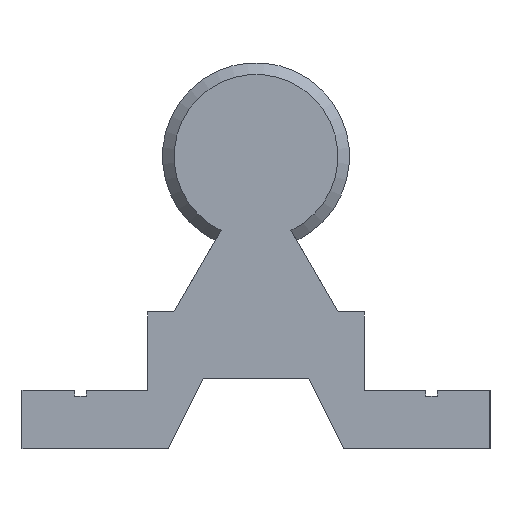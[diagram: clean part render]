
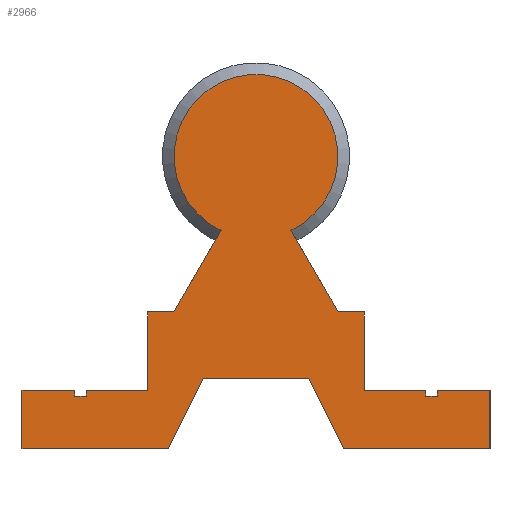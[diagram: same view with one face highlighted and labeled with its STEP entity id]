
A CAD part, left-side view. The second image highlights one B-rep face of the part: STEP entity #2966.
In plain terms, the highlighted planar face has unit normal (-1, 0, 0).
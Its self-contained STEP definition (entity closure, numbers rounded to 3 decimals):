
#64=LINE('',#4381,#318);
#65=LINE('',#4383,#319);
#66=LINE('',#4385,#320);
#67=LINE('',#4387,#321);
#68=LINE('',#4389,#322);
#69=LINE('',#4391,#323);
#70=LINE('',#4393,#324);
#71=LINE('',#4395,#325);
#72=LINE('',#4397,#326);
#73=LINE('',#4399,#327);
#74=LINE('',#4401,#328);
#75=LINE('',#4403,#329);
#76=LINE('',#4405,#330);
#77=LINE('',#4407,#331);
#78=LINE('',#4409,#332);
#79=LINE('',#4411,#333);
#80=LINE('',#4413,#334);
#81=LINE('',#4415,#335);
#82=LINE('',#4417,#336);
#83=LINE('',#4419,#337);
#84=LINE('',#4421,#338);
#85=LINE('',#4423,#339);
#86=LINE('',#4424,#340);
#318=VECTOR('',#3463,10.);
#319=VECTOR('',#3464,10.);
#320=VECTOR('',#3465,10.);
#321=VECTOR('',#3466,10.);
#322=VECTOR('',#3467,10.);
#323=VECTOR('',#3468,10.);
#324=VECTOR('',#3469,10.);
#325=VECTOR('',#3470,10.);
#326=VECTOR('',#3471,10.);
#327=VECTOR('',#3472,10.);
#328=VECTOR('',#3473,10.);
#329=VECTOR('',#3474,10.);
#330=VECTOR('',#3475,10.);
#331=VECTOR('',#3476,10.);
#332=VECTOR('',#3477,10.);
#333=VECTOR('',#3478,10.);
#334=VECTOR('',#3479,10.);
#335=VECTOR('',#3480,10.);
#336=VECTOR('',#3481,10.);
#337=VECTOR('',#3482,10.);
#338=VECTOR('',#3483,10.);
#339=VECTOR('',#3484,10.);
#340=VECTOR('',#3485,10.);
#572=PLANE('',#3128);
#670=FACE_OUTER_BOUND('',#810,.T.);
#810=EDGE_LOOP('',(#1995,#1996,#1997,#1998,#1999,#2000,#2001,#2002,#2003,
#2004,#2005,#2006,#2007,#2008,#2009,#2010,#2011,#2012,#2013,#2014,#2015,
#2016,#2017,#2018));
#973=CIRCLE('',#3126,7.);
#1198=VERTEX_POINT('',#4368);
#1199=VERTEX_POINT('',#4372);
#1201=VERTEX_POINT('',#4380);
#1202=VERTEX_POINT('',#4382);
#1203=VERTEX_POINT('',#4384);
#1204=VERTEX_POINT('',#4386);
#1205=VERTEX_POINT('',#4388);
#1206=VERTEX_POINT('',#4390);
#1207=VERTEX_POINT('',#4392);
#1208=VERTEX_POINT('',#4394);
#1209=VERTEX_POINT('',#4396);
#1210=VERTEX_POINT('',#4398);
#1211=VERTEX_POINT('',#4400);
#1212=VERTEX_POINT('',#4402);
#1213=VERTEX_POINT('',#4404);
#1214=VERTEX_POINT('',#4406);
#1215=VERTEX_POINT('',#4408);
#1216=VERTEX_POINT('',#4410);
#1217=VERTEX_POINT('',#4412);
#1218=VERTEX_POINT('',#4414);
#1219=VERTEX_POINT('',#4416);
#1220=VERTEX_POINT('',#4418);
#1221=VERTEX_POINT('',#4420);
#1222=VERTEX_POINT('',#4422);
#1514=EDGE_CURVE('',#1198,#1199,#973,.T.);
#1517=EDGE_CURVE('',#1199,#1201,#64,.T.);
#1518=EDGE_CURVE('',#1202,#1198,#65,.T.);
#1519=EDGE_CURVE('',#1203,#1202,#66,.T.);
#1520=EDGE_CURVE('',#1204,#1203,#67,.T.);
#1521=EDGE_CURVE('',#1205,#1204,#68,.T.);
#1522=EDGE_CURVE('',#1206,#1205,#69,.T.);
#1523=EDGE_CURVE('',#1207,#1206,#70,.T.);
#1524=EDGE_CURVE('',#1208,#1207,#71,.T.);
#1525=EDGE_CURVE('',#1209,#1208,#72,.T.);
#1526=EDGE_CURVE('',#1210,#1209,#73,.T.);
#1527=EDGE_CURVE('',#1211,#1210,#74,.T.);
#1528=EDGE_CURVE('',#1212,#1211,#75,.T.);
#1529=EDGE_CURVE('',#1213,#1212,#76,.T.);
#1530=EDGE_CURVE('',#1214,#1213,#77,.T.);
#1531=EDGE_CURVE('',#1215,#1214,#78,.T.);
#1532=EDGE_CURVE('',#1216,#1215,#79,.T.);
#1533=EDGE_CURVE('',#1217,#1216,#80,.T.);
#1534=EDGE_CURVE('',#1218,#1217,#81,.T.);
#1535=EDGE_CURVE('',#1219,#1218,#82,.T.);
#1536=EDGE_CURVE('',#1220,#1219,#83,.T.);
#1537=EDGE_CURVE('',#1221,#1220,#84,.T.);
#1538=EDGE_CURVE('',#1222,#1221,#85,.T.);
#1539=EDGE_CURVE('',#1201,#1222,#86,.T.);
#1995=ORIENTED_EDGE('',*,*,#1517,.F.);
#1996=ORIENTED_EDGE('',*,*,#1514,.F.);
#1997=ORIENTED_EDGE('',*,*,#1518,.F.);
#1998=ORIENTED_EDGE('',*,*,#1519,.F.);
#1999=ORIENTED_EDGE('',*,*,#1520,.F.);
#2000=ORIENTED_EDGE('',*,*,#1521,.F.);
#2001=ORIENTED_EDGE('',*,*,#1522,.F.);
#2002=ORIENTED_EDGE('',*,*,#1523,.F.);
#2003=ORIENTED_EDGE('',*,*,#1524,.F.);
#2004=ORIENTED_EDGE('',*,*,#1525,.F.);
#2005=ORIENTED_EDGE('',*,*,#1526,.F.);
#2006=ORIENTED_EDGE('',*,*,#1527,.F.);
#2007=ORIENTED_EDGE('',*,*,#1528,.F.);
#2008=ORIENTED_EDGE('',*,*,#1529,.F.);
#2009=ORIENTED_EDGE('',*,*,#1530,.F.);
#2010=ORIENTED_EDGE('',*,*,#1531,.F.);
#2011=ORIENTED_EDGE('',*,*,#1532,.F.);
#2012=ORIENTED_EDGE('',*,*,#1533,.F.);
#2013=ORIENTED_EDGE('',*,*,#1534,.F.);
#2014=ORIENTED_EDGE('',*,*,#1535,.F.);
#2015=ORIENTED_EDGE('',*,*,#1536,.F.);
#2016=ORIENTED_EDGE('',*,*,#1537,.F.);
#2017=ORIENTED_EDGE('',*,*,#1538,.F.);
#2018=ORIENTED_EDGE('',*,*,#1539,.F.);
#2966=ADVANCED_FACE('',(#670),#572,.F.);
#3126=AXIS2_PLACEMENT_3D('',#4373,#3457,#3458);
#3128=AXIS2_PLACEMENT_3D('',#4379,#3461,#3462);
#3457=DIRECTION('center_axis',(1.,0.,0.));
#3458=DIRECTION('ref_axis',(0.,1.,0.));
#3461=DIRECTION('center_axis',(1.,0.,0.));
#3462=DIRECTION('ref_axis',(0.,0.,-1.));
#3463=DIRECTION('',(0.,-0.5,-0.866));
#3464=DIRECTION('',(0.,-0.5,0.866));
#3465=DIRECTION('',(0.,-1.,0.));
#3466=DIRECTION('',(0.,0.,1.));
#3467=DIRECTION('',(0.,-1.,0.));
#3468=DIRECTION('',(0.,0.,1.));
#3469=DIRECTION('',(0.,-1.,0.));
#3470=DIRECTION('',(0.,0.,-1.));
#3471=DIRECTION('',(0.,-1.,0.));
#3472=DIRECTION('',(0.,0.,1.));
#3473=DIRECTION('',(0.,1.,0.));
#3474=DIRECTION('',(0.,0.447,-0.894));
#3475=DIRECTION('',(0.,1.,0.));
#3476=DIRECTION('',(0.,0.447,0.894));
#3477=DIRECTION('',(0.,1.,0.));
#3478=DIRECTION('',(0.,0.,-1.));
#3479=DIRECTION('',(0.,-1.,0.));
#3480=DIRECTION('',(0.,0.,1.));
#3481=DIRECTION('',(0.,-1.,0.));
#3482=DIRECTION('',(0.,0.,-1.));
#3483=DIRECTION('',(0.,-1.,0.));
#3484=DIRECTION('',(0.,0.,-1.));
#3485=DIRECTION('',(0.,-1.,0.));
#4368=CARTESIAN_POINT('',(0.,2.986,18.669));
#4372=CARTESIAN_POINT('',(0.,-2.986,18.669));
#4373=CARTESIAN_POINT('Origin',(0.,0.,25.));
#4379=CARTESIAN_POINT('Origin',(0.,0.,25.));
#4380=CARTESIAN_POINT('',(0.,-7.009,11.7));
#4381=CARTESIAN_POINT('',(0.,-1.492,21.255));
#4382=CARTESIAN_POINT('',(0.,7.009,11.7));
#4383=CARTESIAN_POINT('',(0.,3.253,18.205));
#4384=CARTESIAN_POINT('',(0.,9.25,11.7));
#4385=CARTESIAN_POINT('',(0.,9.25,11.7));
#4386=CARTESIAN_POINT('',(0.,9.25,5.));
#4387=CARTESIAN_POINT('',(0.,9.25,5.));
#4388=CARTESIAN_POINT('',(0.,14.5,5.));
#4389=CARTESIAN_POINT('',(0.,14.5,5.));
#4390=CARTESIAN_POINT('',(0.,14.5,4.5));
#4391=CARTESIAN_POINT('',(0.,14.5,4.5));
#4392=CARTESIAN_POINT('',(0.,15.5,4.5));
#4393=CARTESIAN_POINT('',(0.,15.5,4.5));
#4394=CARTESIAN_POINT('',(0.,15.5,5.));
#4395=CARTESIAN_POINT('',(0.,15.5,5.));
#4396=CARTESIAN_POINT('',(0.,20.,5.));
#4397=CARTESIAN_POINT('',(0.,20.,5.));
#4398=CARTESIAN_POINT('',(0.,20.,0.));
#4399=CARTESIAN_POINT('',(0.,20.,0.));
#4400=CARTESIAN_POINT('',(0.,7.5,0.));
#4401=CARTESIAN_POINT('',(0.,7.5,0.));
#4402=CARTESIAN_POINT('',(0.,4.5,6.));
#4403=CARTESIAN_POINT('',(0.,4.5,6.));
#4404=CARTESIAN_POINT('',(0.,-4.5,6.));
#4405=CARTESIAN_POINT('',(0.,-4.5,6.));
#4406=CARTESIAN_POINT('',(0.,-7.5,0.));
#4407=CARTESIAN_POINT('',(0.,-7.5,0.));
#4408=CARTESIAN_POINT('',(0.,-20.,0.));
#4409=CARTESIAN_POINT('',(0.,-20.,0.));
#4410=CARTESIAN_POINT('',(0.,-20.,5.));
#4411=CARTESIAN_POINT('',(0.,-20.,5.));
#4412=CARTESIAN_POINT('',(0.,-15.5,5.));
#4413=CARTESIAN_POINT('',(0.,-15.5,5.));
#4414=CARTESIAN_POINT('',(0.,-15.5,4.5));
#4415=CARTESIAN_POINT('',(0.,-15.5,4.5));
#4416=CARTESIAN_POINT('',(0.,-14.5,4.5));
#4417=CARTESIAN_POINT('',(0.,-14.5,4.5));
#4418=CARTESIAN_POINT('',(0.,-14.5,5.));
#4419=CARTESIAN_POINT('',(0.,-14.5,5.));
#4420=CARTESIAN_POINT('',(0.,-9.25,5.));
#4421=CARTESIAN_POINT('',(0.,-9.25,5.));
#4422=CARTESIAN_POINT('',(0.,-9.25,11.7));
#4423=CARTESIAN_POINT('',(0.,-9.25,11.7));
#4424=CARTESIAN_POINT('',(0.,-7.009,11.7));
